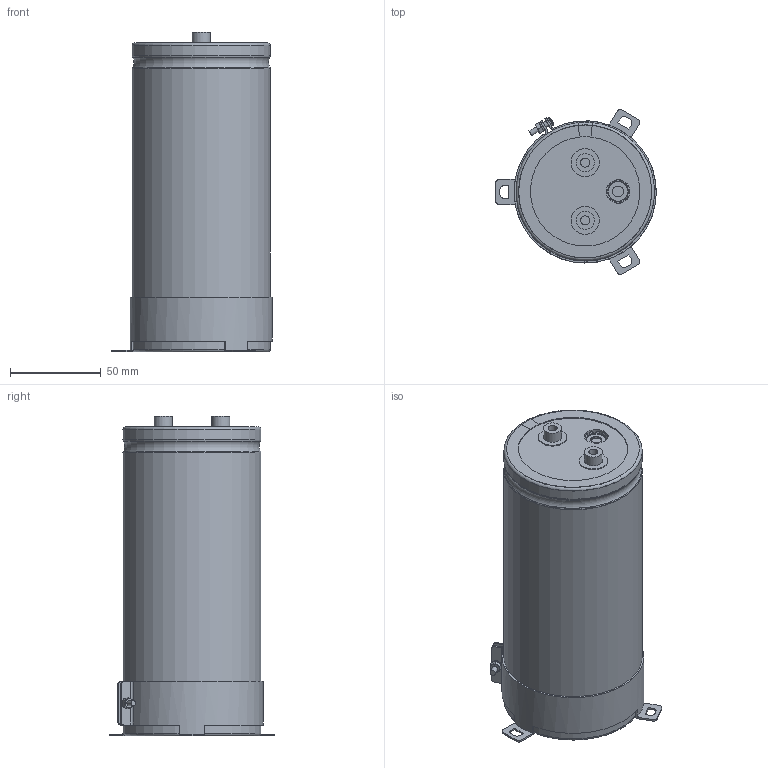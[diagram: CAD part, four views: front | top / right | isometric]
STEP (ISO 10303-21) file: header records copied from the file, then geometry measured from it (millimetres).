
FILE_DESCRIPTION(/* description */ (''),/* implementation_level */ '2;1');
FILE_NAME(/* name */ '76.2x170_Screw.stp',/* time_stamp */ '2017-09-17T13:36:57+09:00',/* author */ (''),/* organization */ (''),/* preprocessor_version */ 'ST-DEVELOPER v16',/* originating_system */ 'SIEMENS PLM Software NX 11.0',/* authorisation */ '');
FILE_SCHEMA (('AUTOMOTIVE_DESIGN { 1 0 10303 214 3 1 1 1 }'));
Length unit declared in the file: millimetre
Products named in the file (1): 76.2x170_Screw
Bounding box: 88.3 x 90.75 x 176 mm (x, y, z)
Volume: 777649.1 mm3; surface area: 151915.1 mm2
Topology: 9 solids, 9 shells, 259 faces, 642 edges, 413 vertices
Faces by surface type: plane 112, cylinder 66, torus 49, cone 31, sphere 1
Full cylindrical faces by diameter (mm): 3 x5, 5 x2, 5.5 x2, 6 x4, 8 x1, 10 x2, 13 x2, 15.5 x2, 75 x2
Entity records: 8534 total; most frequent: CARTESIAN_POINT 2182, DIRECTION 1296, ORIENTED_EDGE 1214, EDGE_CURVE 607, AXIS2_PLACEMENT_3D 541, VERTEX_POINT 408, EDGE_LOOP 317, CIRCLE 281
